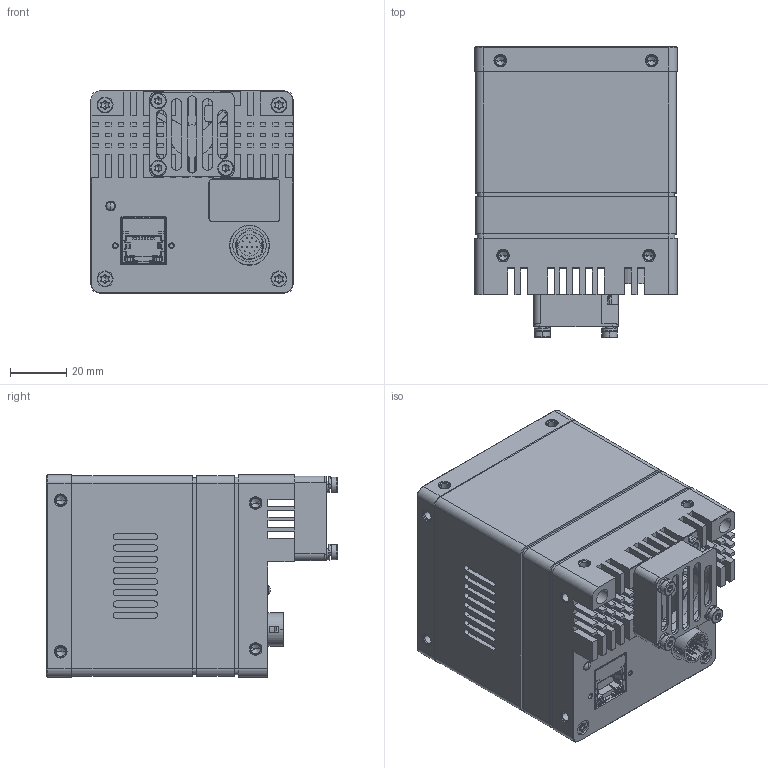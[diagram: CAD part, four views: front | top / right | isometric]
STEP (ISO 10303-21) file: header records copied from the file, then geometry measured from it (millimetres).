
FILE_DESCRIPTION((''),'2;1');
FILE_NAME('0-DH3-1878-0007_ASM_ASM','2024-01-23T11:31:21',('309376'),(''),'CREO PARAMETRIC BY PTC INC, 2020184','CREO PARAMETRIC BY PTC INC, 2020184','');
FILE_SCHEMA(('CONFIG_CONTROL_DESIGN','SHAPE_APPEARANCE_LAYERS_GROUPS'));
Products named in the file (9): DH3-3424-6005_1_1_2_3_4_5; DH3-3424-V005_ASM_1_1_2_3_4_5_ASM; DH3-1878-V032_ASM_1_1_2_ASM; DH3-1878-6012_1_1_2_3_4_5_6; DH3-1878-V006_ASM_1_1_ASM; DH3-1878-6009_1_1_2; DH3-1878-V018_ASM_1_ASM; 0-DH3-1878-0007_ASM_1_ASM; 0-DH3-1878-0007_ASM_ASM
Assembly tree (8 placements, depth 5):
  0-DH3-1878-0007_ASM_ASM
    0-DH3-1878-0007_ASM_1_ASM
      DH3-1878-V032_ASM_1_1_2_ASM
        DH3-3424-V005_ASM_1_1_2_3_4_5_ASM
          DH3-3424-6005_1_1_2_3_4_5
      DH3-1878-V018_ASM_1_ASM
        DH3-1878-V006_ASM_1_1_ASM
          DH3-1878-6012_1_1_2_3_4_5_6
        DH3-1878-6009_1_1_2
Bounding box: 72 x 103.75 x 72 mm (x, y, z)
Volume: 493406.6 mm3; surface area: 99132.5 mm2
Topology: 3 solids, 94 shells, 2813 faces, 7810 edges, 5072 vertices
Faces by surface type: plane 1416, cylinder 969, cone 272, bspline 100, torus 50, sphere 6
Entity records: 128110 total; most frequent: CARTESIAN_POINT 26997, DIRECTION 15505, ORIENTED_EDGE 15054, PRESENTATION_STYLE_ASSIGNMENT 8350, STYLED_ITEM 7746, CURVE_STYLE 7679, EDGE_CURVE 7679, AXIS2_PLACEMENT_3D 5549
